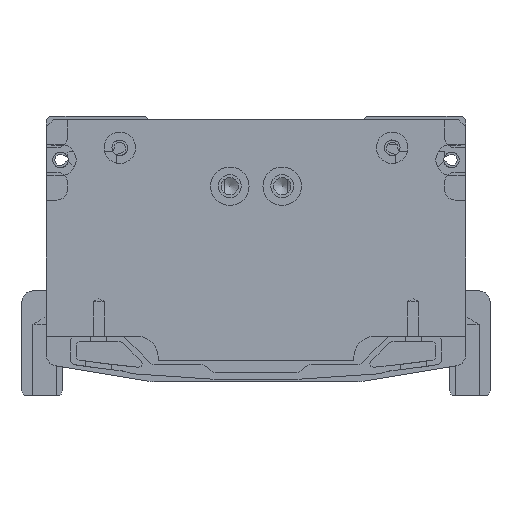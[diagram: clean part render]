
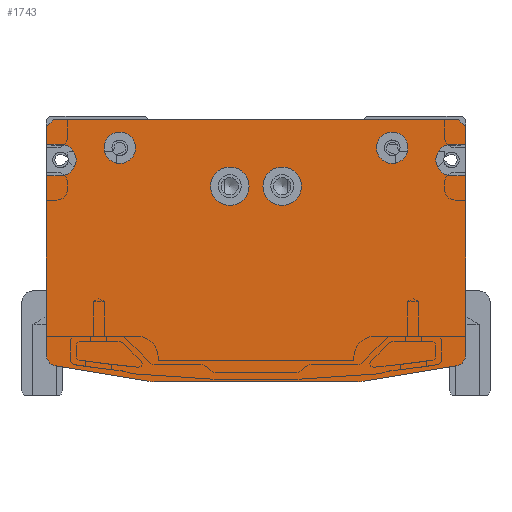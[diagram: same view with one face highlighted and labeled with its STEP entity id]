
A CAD part, front view. The second image highlights one B-rep face of the part: STEP entity #1743.
In plain terms, the highlighted planar face has unit normal (0, -1, 0).
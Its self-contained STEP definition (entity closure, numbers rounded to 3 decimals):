
#1743=ADVANCED_FACE('',(#2931,#2932,#2933,#2934,#2935),#2437,.F.);
#2437=PLANE('',#17402);
#2931=FACE_BOUND('',#4173,.T.);
#2932=FACE_BOUND('',#4174,.T.);
#2933=FACE_BOUND('',#4175,.T.);
#2934=FACE_BOUND('',#4176,.T.);
#2935=FACE_BOUND('',#4177,.T.);
#4173=EDGE_LOOP('',(#8206));
#4174=EDGE_LOOP('',(#8207));
#4175=EDGE_LOOP('',(#8208,#8209,#8210,#8211,#8212,#8213,#8214,#8215,#8216,
#8217,#8218,#8219,#8220,#8221,#8222,#8223,#8224,#8225,#8226,#8227));
#4176=EDGE_LOOP('',(#8228));
#4177=EDGE_LOOP('',(#8229));
#5417=CIRCLE('',#17303,5.5);
#5421=CIRCLE('',#17310,5.5);
#5424=CIRCLE('',#17316,4.5);
#5428=CIRCLE('',#17323,4.5);
#5435=CIRCLE('',#17341,4.5);
#5438=CIRCLE('',#17350,3.);
#5441=CIRCLE('',#17355,10.);
#5442=CIRCLE('',#17358,10.);
#5445=CIRCLE('',#17363,3.);
#5453=CIRCLE('',#17390,4.5);
#8206=ORIENTED_EDGE('',*,*,#13312,.T.);
#8207=ORIENTED_EDGE('',*,*,#13316,.T.);
#8208=ORIENTED_EDGE('',*,*,#13377,.T.);
#8209=ORIENTED_EDGE('',*,*,#13373,.F.);
#8210=ORIENTED_EDGE('',*,*,#13371,.F.);
#8211=ORIENTED_EDGE('',*,*,#13368,.F.);
#8212=ORIENTED_EDGE('',*,*,#13364,.T.);
#8213=ORIENTED_EDGE('',*,*,#13361,.T.);
#8214=ORIENTED_EDGE('',*,*,#13018,.F.);
#8215=ORIENTED_EDGE('',*,*,#13347,.T.);
#8216=ORIENTED_EDGE('',*,*,#13344,.T.);
#8217=ORIENTED_EDGE('',*,*,#13342,.F.);
#8218=ORIENTED_EDGE('',*,*,#13014,.F.);
#8219=ORIENTED_EDGE('',*,*,#13338,.T.);
#8220=ORIENTED_EDGE('',*,*,#12989,.F.);
#8221=ORIENTED_EDGE('',*,*,#13336,.T.);
#8222=ORIENTED_EDGE('',*,*,#12740,.F.);
#8223=ORIENTED_EDGE('',*,*,#13412,.T.);
#8224=ORIENTED_EDGE('',*,*,#13409,.T.);
#8225=ORIENTED_EDGE('',*,*,#13407,.F.);
#8226=ORIENTED_EDGE('',*,*,#12736,.F.);
#8227=ORIENTED_EDGE('',*,*,#13380,.T.);
#8228=ORIENTED_EDGE('',*,*,#13323,.F.);
#8229=ORIENTED_EDGE('',*,*,#13319,.F.);
#10964=VERTEX_POINT('',#25433);
#10965=VERTEX_POINT('',#25435);
#10968=VERTEX_POINT('',#25441);
#10969=VERTEX_POINT('',#25443);
#11092=VERTEX_POINT('',#26299);
#11093=VERTEX_POINT('',#26301);
#11108=VERTEX_POINT('',#26347);
#11109=VERTEX_POINT('',#26349);
#11112=VERTEX_POINT('',#26355);
#11113=VERTEX_POINT('',#26357);
#11312=VERTEX_POINT('',#27446);
#11316=VERTEX_POINT('',#27457);
#11319=VERTEX_POINT('',#27466);
#11322=VERTEX_POINT('',#27476);
#11330=VERTEX_POINT('',#27511);
#11332=VERTEX_POINT('',#27518);
#11343=VERTEX_POINT('',#27552);
#11345=VERTEX_POINT('',#27558);
#11348=VERTEX_POINT('',#27566);
#11350=VERTEX_POINT('',#27572);
#11351=VERTEX_POINT('',#27576);
#11354=VERTEX_POINT('',#27584);
#11366=VERTEX_POINT('',#27643);
#11368=VERTEX_POINT('',#27650);
#12736=EDGE_CURVE('',#10964,#10965,#14565,.T.);
#12740=EDGE_CURVE('',#10968,#10969,#14569,.T.);
#12989=EDGE_CURVE('',#11092,#11093,#14697,.T.);
#13014=EDGE_CURVE('',#11108,#11109,#14722,.T.);
#13018=EDGE_CURVE('',#11112,#11113,#14726,.T.);
#13312=EDGE_CURVE('',#11312,#11312,#5417,.T.);
#13316=EDGE_CURVE('',#11316,#11316,#5421,.T.);
#13319=EDGE_CURVE('',#11319,#11319,#5424,.T.);
#13323=EDGE_CURVE('',#11322,#11322,#5428,.T.);
#13336=EDGE_CURVE('',#11092,#10969,#14900,.T.);
#13338=EDGE_CURVE('',#11108,#11093,#14902,.T.);
#13342=EDGE_CURVE('',#11109,#11330,#14906,.T.);
#13344=EDGE_CURVE('',#11332,#11330,#5435,.T.);
#13347=EDGE_CURVE('',#11112,#11332,#14909,.T.);
#13361=EDGE_CURVE('',#11343,#11113,#5438,.T.);
#13364=EDGE_CURVE('',#11345,#11343,#14922,.T.);
#13368=EDGE_CURVE('',#11345,#11348,#5441,.T.);
#13371=EDGE_CURVE('',#11348,#11350,#14927,.T.);
#13373=EDGE_CURVE('',#11350,#11351,#5442,.T.);
#13377=EDGE_CURVE('',#11354,#11351,#14931,.T.);
#13380=EDGE_CURVE('',#10964,#11354,#5445,.T.);
#13407=EDGE_CURVE('',#10965,#11366,#14953,.T.);
#13409=EDGE_CURVE('',#11368,#11366,#5453,.T.);
#13412=EDGE_CURVE('',#10968,#11368,#14956,.T.);
#14565=LINE('',#25434,#15687);
#14569=LINE('',#25442,#15691);
#14697=LINE('',#26300,#15819);
#14722=LINE('',#26348,#15844);
#14726=LINE('',#26356,#15848);
#14900=LINE('',#27503,#16022);
#14902=LINE('',#27506,#16024);
#14906=LINE('',#27513,#16028);
#14909=LINE('',#27522,#16031);
#14922=LINE('',#27557,#16044);
#14927=LINE('',#27571,#16049);
#14931=LINE('',#27583,#16053);
#14953=LINE('',#27645,#16075);
#14956=LINE('',#27654,#16078);
#15687=VECTOR('',#19555,1.);
#15691=VECTOR('',#19559,1.);
#15819=VECTOR('',#19991,1.);
#15844=VECTOR('',#20030,1.);
#15848=VECTOR('',#20034,1.);
#16022=VECTOR('',#20794,1.);
#16024=VECTOR('',#20798,1.);
#16028=VECTOR('',#20804,1.);
#16031=VECTOR('',#20815,1.);
#16044=VECTOR('',#20848,1.);
#16049=VECTOR('',#20861,1.);
#16053=VECTOR('',#20873,1.);
#16075=VECTOR('',#20949,1.);
#16078=VECTOR('',#20960,1.);
#17303=AXIS2_PLACEMENT_3D('',#27445,#20719,#20720);
#17310=AXIS2_PLACEMENT_3D('',#27456,#20733,#20734);
#17316=AXIS2_PLACEMENT_3D('',#27465,#20745,#20746);
#17323=AXIS2_PLACEMENT_3D('',#27475,#20759,#20760);
#17341=AXIS2_PLACEMENT_3D('',#27517,#20809,#20810);
#17350=AXIS2_PLACEMENT_3D('',#27551,#20841,#20842);
#17355=AXIS2_PLACEMENT_3D('',#27565,#20855,#20856);
#17358=AXIS2_PLACEMENT_3D('',#27575,#20865,#20866);
#17363=AXIS2_PLACEMENT_3D('',#27588,#20879,#20880);
#17390=AXIS2_PLACEMENT_3D('',#27649,#20954,#20955);
#17402=AXIS2_PLACEMENT_3D('',#27671,#20985,#20986);
#19555=DIRECTION('',(0.,0.,1.));
#19559=DIRECTION('',(0.,0.,1.));
#19991=DIRECTION('',(1.,0.,0.));
#20030=DIRECTION('',(0.,0.,-1.));
#20034=DIRECTION('',(0.,0.,-1.));
#20719=DIRECTION('',(0.,1.,0.));
#20720=DIRECTION('',(1.,0.,0.));
#20733=DIRECTION('',(0.,1.,0.));
#20734=DIRECTION('',(1.,0.,0.));
#20745=DIRECTION('',(0.,-1.,0.));
#20746=DIRECTION('',(1.,0.,0.));
#20759=DIRECTION('',(0.,-1.,0.));
#20760=DIRECTION('',(1.,0.,0.));
#20794=DIRECTION('',(-0.707,0.,-0.707));
#20798=DIRECTION('',(-0.707,0.,0.707));
#20804=DIRECTION('',(-1.,0.,0.));
#20809=DIRECTION('',(0.,1.,0.));
#20810=DIRECTION('',(0.,0.,-1.));
#20815=DIRECTION('',(-1.,0.,0.));
#20841=DIRECTION('',(0.,-1.,0.));
#20842=DIRECTION('',(0.164,0.,-0.986));
#20848=DIRECTION('',(0.986,0.,0.164));
#20855=DIRECTION('',(0.,1.,0.));
#20856=DIRECTION('',(0.164,0.,-0.986));
#20861=DIRECTION('',(-1.,0.,0.));
#20865=DIRECTION('',(0.,1.,0.));
#20866=DIRECTION('',(0.,0.,-1.));
#20873=DIRECTION('',(0.986,0.,-0.164));
#20879=DIRECTION('',(0.,-1.,0.));
#20880=DIRECTION('',(-1.,0.,0.));
#20949=DIRECTION('',(1.,0.,0.));
#20954=DIRECTION('',(0.,1.,0.));
#20955=DIRECTION('',(0.,0.,1.));
#20960=DIRECTION('',(1.,0.,0.));
#20985=DIRECTION('',(0.,1.,0.));
#20986=DIRECTION('',(1.,0.,0.));
#25433=CARTESIAN_POINT('',(-60.,-2012.,-69.459));
#25434=CARTESIAN_POINT('',(-60.,-2012.,-69.459));
#25435=CARTESIAN_POINT('',(-60.,-2012.,-18.));
#25441=CARTESIAN_POINT('',(-60.,-2012.,-9.));
#25442=CARTESIAN_POINT('',(-60.,-2012.,-9.));
#25443=CARTESIAN_POINT('',(-60.,-2012.,-4.));
#26299=CARTESIAN_POINT('',(-58.,-2012.,-2.));
#26300=CARTESIAN_POINT('',(-58.,-2012.,-2.));
#26301=CARTESIAN_POINT('',(58.,-2012.,-2.));
#26347=CARTESIAN_POINT('',(60.,-2012.,-4.));
#26348=CARTESIAN_POINT('',(60.,-2012.,-4.));
#26349=CARTESIAN_POINT('',(60.,-2012.,-9.));
#26355=CARTESIAN_POINT('',(60.,-2012.,-18.));
#26356=CARTESIAN_POINT('',(60.,-2012.,-18.));
#26357=CARTESIAN_POINT('',(60.,-2012.,-69.459));
#27445=CARTESIAN_POINT('',(7.5,-2012.,-21.));
#27446=CARTESIAN_POINT('',(13.,-2012.,-21.));
#27456=CARTESIAN_POINT('',(-7.5,-2012.,-21.));
#27457=CARTESIAN_POINT('',(-2.,-2012.,-21.));
#27465=CARTESIAN_POINT('',(-39.,-2012.,-10.));
#27466=CARTESIAN_POINT('',(-34.5,-2012.,-10.));
#27475=CARTESIAN_POINT('',(39.,-2012.,-10.));
#27476=CARTESIAN_POINT('',(43.5,-2012.,-10.));
#27503=CARTESIAN_POINT('',(-58.,-2012.,-2.));
#27506=CARTESIAN_POINT('',(60.,-2012.,-4.));
#27511=CARTESIAN_POINT('',(56.,-2012.,-9.));
#27513=CARTESIAN_POINT('',(60.,-2012.,-9.));
#27517=CARTESIAN_POINT('',(56.,-2012.,-13.5));
#27518=CARTESIAN_POINT('',(56.,-2012.,-18.));
#27522=CARTESIAN_POINT('',(60.,-2012.,-18.));
#27551=CARTESIAN_POINT('',(57.,-2012.,-69.459));
#27552=CARTESIAN_POINT('',(57.493,-2012.,-72.418));
#27557=CARTESIAN_POINT('',(30.816,-2012.,-76.864));
#27558=CARTESIAN_POINT('',(30.816,-2012.,-76.864));
#27565=CARTESIAN_POINT('',(29.172,-2012.,-67.));
#27566=CARTESIAN_POINT('',(29.172,-2012.,-77.));
#27571=CARTESIAN_POINT('',(29.172,-2012.,-77.));
#27572=CARTESIAN_POINT('',(-29.172,-2012.,-77.));
#27575=CARTESIAN_POINT('',(-29.172,-2012.,-67.));
#27576=CARTESIAN_POINT('',(-30.816,-2012.,-76.864));
#27583=CARTESIAN_POINT('',(-57.493,-2012.,-72.418));
#27584=CARTESIAN_POINT('',(-57.493,-2012.,-72.418));
#27588=CARTESIAN_POINT('',(-57.,-2012.,-69.459));
#27643=CARTESIAN_POINT('',(-56.,-2012.,-18.));
#27645=CARTESIAN_POINT('',(-60.,-2012.,-18.));
#27649=CARTESIAN_POINT('',(-56.,-2012.,-13.5));
#27650=CARTESIAN_POINT('',(-56.,-2012.,-9.));
#27654=CARTESIAN_POINT('',(-60.,-2012.,-9.));
#27671=CARTESIAN_POINT('',(0.,-2012.,-2.));
